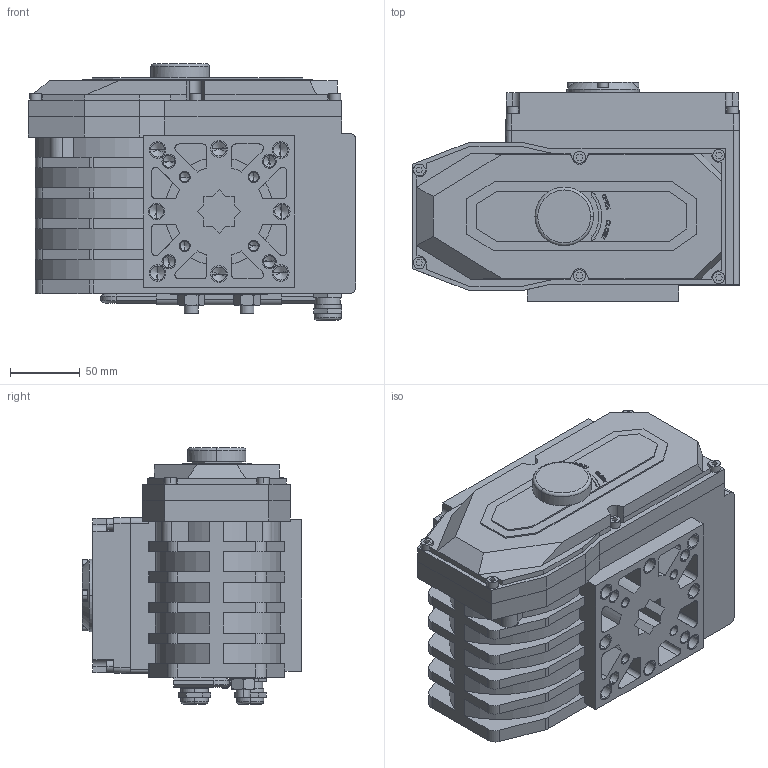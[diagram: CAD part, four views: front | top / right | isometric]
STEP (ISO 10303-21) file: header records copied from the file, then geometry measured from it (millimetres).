
FILE_DESCRIPTION((''),'2;1');
FILE_NAME('ELECTROPRIVOD_ASM','2024-09-01T',('AMD'),(''),'PRO/ENGINEER BY PARAMETRIC TECHNOLOGY CORPORATION, 2008020','PRO/ENGINEER BY PARAMETRIC TECHNOLOGY CORPORATION, 2008020','');
FILE_SCHEMA(('CONFIG_CONTROL_DESIGN'));
Length unit declared in the file: millimetre
Products named in the file (9): DET_1; V-11738-M5; V-11738-M4; DET_2; KREPLENIE; KLUCH; DET_3; G-5915-M10; ELECTROPRIVOD_ASM
Assembly tree (21 placements, depth 2):
  ELECTROPRIVOD_ASM
    DET_1
    V-11738-M5  x10
    V-11738-M4  x4
    DET_2
    KREPLENIE
    KLUCH
    DET_3
    G-5915-M10  x2
Bounding box: 235 x 157.5 x 184 mm (x, y, z)
Volume: 4031669.7 mm3; surface area: 333149.9 mm2
Topology: 21 solids, 53 shells, 1112 faces, 2879 edges, 1896 vertices
Faces by surface type: plane 773, cylinder 279, cone 54, torus 6
Entity records: 27798 total; most frequent: CARTESIAN_POINT 5053, DIRECTION 4648, ORIENTED_EDGE 4614, EDGE_CURVE 2347, VECTOR 1826, LINE 1826, VERTEX_POINT 1556, AXIS2_PLACEMENT_3D 1411
